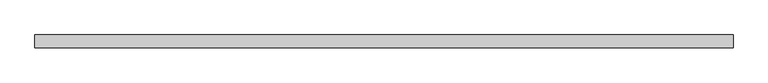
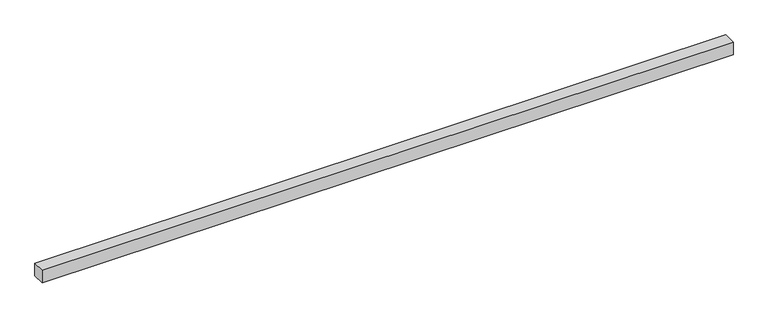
"""IFC4 building model written with IfcOpenShell, lengths in millimetres: plate geometry, Panneau système : Vitré."""

from ifc_helpers import new_model, si_unit, origin, origin_with_axes, place, context, project, spatial, polyline, outline, extrude, source, transform, mapped, element, save


def plate_c28b94aa(model_context):
    return source(origin(), model_context, "Body", "SweptSolid", [
        extrude(outline(polyline([(1100.0, -45.0), (-1100.0, -45.0), (-1100.0, -5.0), (1100.0, -5.0), (1100.0, -45.0)])), origin_with_axes(), (0.0, 0.0, 1.0), 41.9248737),
    ])


if __name__ == "__main__":
    model = new_model("IFC4")
    model_context = context("Model", 3, world=origin())
    ifc_project = project(units=[si_unit("LENGTHUNIT", "METRE", prefix="MILLI")], contexts=[model_context])
    site = spatial("IfcSite", under=ifc_project)
    building = spatial("IfcBuilding", under=site)
    placement = place(None, origin())
    plate_shape = plate_c28b94aa(model_context)
    element("IfcPlate", 1, ObjectType="Panneau système : Vitré", at=placement, inside=building, context=model_context, shape_type="MappedRepresentation", body=[
        mapped(plate_shape, transform((0.0, 0.0, 0.0), x_axis=(1.0, 0.0, 0.0), y_axis=(0.0, 1.0, 0.0), z_axis=(0.0, 0.0, 1.0))),
    ])
    save(model, "model.ifc")
